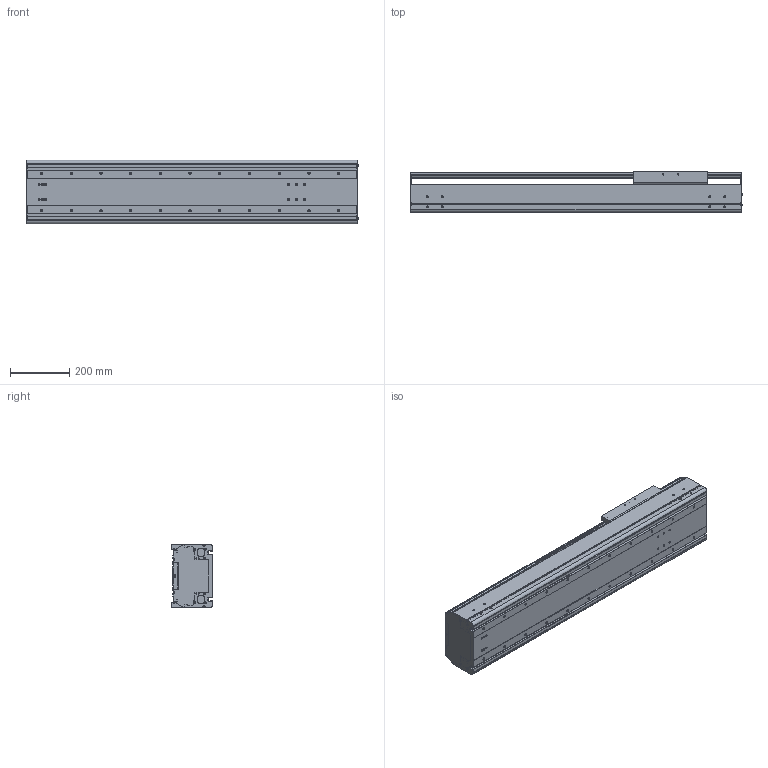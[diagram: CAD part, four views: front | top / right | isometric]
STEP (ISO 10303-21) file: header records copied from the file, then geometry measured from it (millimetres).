
FILE_DESCRIPTION((''),'2;1');
FILE_NAME('BE60G-ST-M_N-70_IGS_PRT','2017-06-18T',(' '),(''),'PRO/ENGINEER BY PARAMETRIC TECHNOLOGY CORPORATION, 2015030','PRO/ENGINEER BY PARAMETRIC TECHNOLOGY CORPORATION, 2015030','');
FILE_SCHEMA(('CONFIG_CONTROL_DESIGN'));
Length unit declared in the file: millimetre
Products named in the file (1): BE60G-ST-M_N-70_IGS_PRT
Bounding box: 1117.4 x 140 x 214 mm (x, y, z)
Volume: 9180085 mm3; surface area: 2444703.8 mm2
Topology: 2 solids, 126 shells, 1476 faces, 4100 edges, 2689 vertices
Faces by surface type: cylinder 736, plane 596, cone 96, sphere 24, torus 24
Entity records: 48921 total; most frequent: CARTESIAN_POINT 10715, DIRECTION 8100, ORIENTED_EDGE 7524, EDGE_CURVE 4006, AXIS2_PLACEMENT_3D 3005, VERTEX_POINT 2688, VECTOR 2090, LINE 2090
